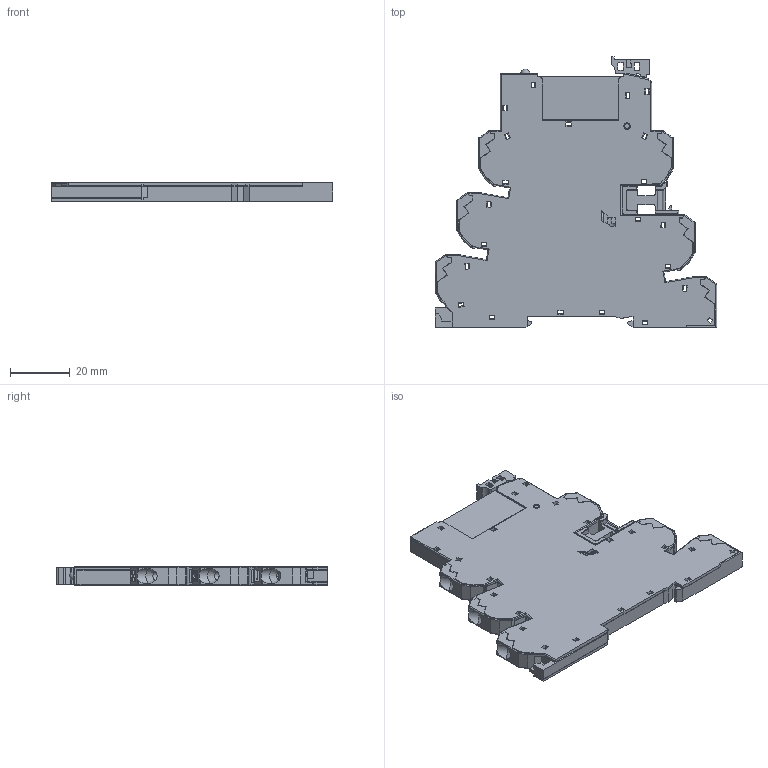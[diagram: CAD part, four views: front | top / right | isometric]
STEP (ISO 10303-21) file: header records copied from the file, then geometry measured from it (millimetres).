
FILE_DESCRIPTION( ( 'Unknown' ), '1' );
FILE_NAME( 'C:/Users/pdellaca/Desktop/Mezzacappa 93.6x push-in/39xx + 936x push-in STP/3961.stp', 'Unknown', ( 'Unknown' ), ( 'Unknown' ), 'PSStep 15.0.49', 'Unknown', ' ' );
FILE_SCHEMA( ( 'AUTOMOTIVE_DESIGN { 1 0 10303 214 1 1 1 1 }' ) );
Length unit declared in the file: millimetre
Products named in the file (13): top; EF00901-
Bounding box: 94.25 x 90.7 x 6.15 mm (x, y, z)
Surface area: 32677 mm2 (no closed solid volume)
Topology: 0 solids, 1042 shells, 1042 faces, 7654 edges, 7621 vertices
Faces by surface type: plane 737, cylinder 255, sphere 17, cone 13, torus 12, bspline 6, revolution 2
Full cylindrical faces by diameter (mm): 2 x2, 2.2 x2, 2.8 x6
Entity records: 79503 total; most frequent: CARTESIAN_POINT 16936, DIRECTION 10602, VERTEX_POINT 7608, ORIENTED_EDGE 7607, EDGE_CURVE 7607, LINE 6470, VECTOR 6470, AXIS2_PLACEMENT_3D 2065
